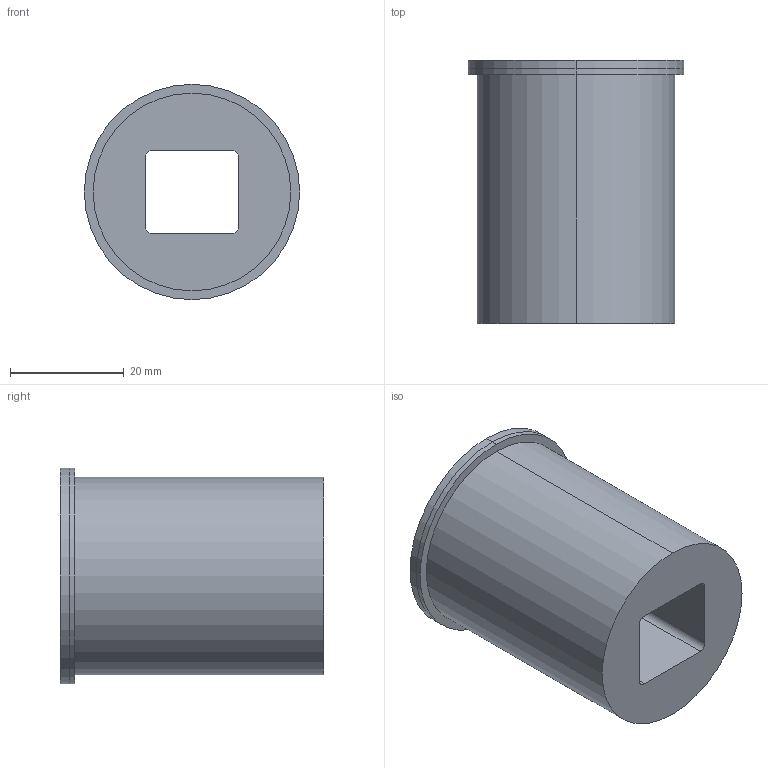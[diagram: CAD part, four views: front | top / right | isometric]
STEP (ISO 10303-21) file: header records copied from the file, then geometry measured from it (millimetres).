
FILE_DESCRIPTION((''),'2;1');
FILE_NAME('A1464664_ASM','2025-01-08T09:43:58',('FDR'),(''),'CREO PARAMETRIC BY PTC INC, 2023494','CREO PARAMETRIC BY PTC INC, 2023494','');
FILE_SCHEMA(('AP242_MANAGED_MODEL_BASED_3D_ENGINEERING_MIM_LF { 1 0 10303 442 1 1 4 }'));
Length unit declared in the file: millimetre
Products named in the file (3): A1464665; A1464666; A1464664_ASM
Assembly tree (2 placements, depth 2):
  A1464664_ASM
    A1464665
    A1464666
Bounding box: 37.9 x 46.3 x 37.9 mm (x, y, z)
Volume: 33316.6 mm3; surface area: 11528.6 mm2
Topology: 2 solids, 2 shells, 33 faces, 102 edges, 80 vertices
Faces by surface type: cylinder 18, plane 15
Entity records: 2304 total; most frequent: DIRECTION 236, COLOUR_RGB 228, CARTESIAN_POINT 207, ORIENTED_EDGE 156, PRESENTATION_STYLE_ASSIGNMENT 109, STYLED_ITEM 109, CURVE_STYLE 107, AXIS2_PLACEMENT_3D 88
